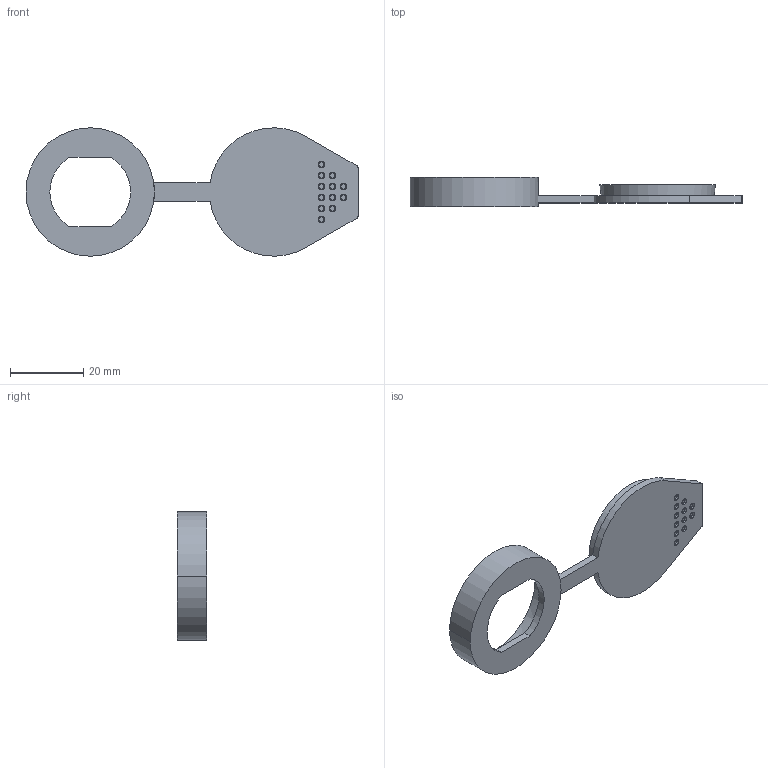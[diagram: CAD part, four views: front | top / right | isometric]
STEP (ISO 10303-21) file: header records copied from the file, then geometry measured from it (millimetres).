
FILE_DESCRIPTION((''),'2;1');
FILE_NAME('MIFONGGAO','2016-07-07T',('Administrator'),(''),'PRO/ENGINEER BY PARAMETRIC TECHNOLOGY CORPORATION, 2009060','PRO/ENGINEER BY PARAMETRIC TECHNOLOGY CORPORATION, 2009060','');
FILE_SCHEMA(('CONFIG_CONTROL_DESIGN'));
Length unit declared in the file: millimetre
Products named in the file (1): MIFONGGAO
Bounding box: 90.5 x 8 x 35 mm (x, y, z)
Volume: 4921.1 mm3; surface area: 6138.1 mm2
Topology: 1 solids, 1 shells, 64 faces, 141 edges, 94 vertices
Faces by surface type: plane 26, bspline 24, cylinder 10, cone 4
Entity records: 2543 total; most frequent: CARTESIAN_POINT 1259, ORIENTED_EDGE 282, DIRECTION 181, EDGE_CURVE 141, VERTEX_POINT 94, EDGE_LOOP 81, AXIS2_PLACEMENT_3D 72, B_SPLINE_CURVE_WITH_KNOTS 72
